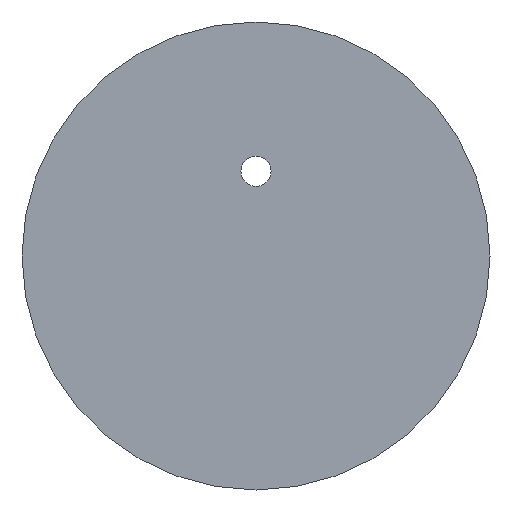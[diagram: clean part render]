
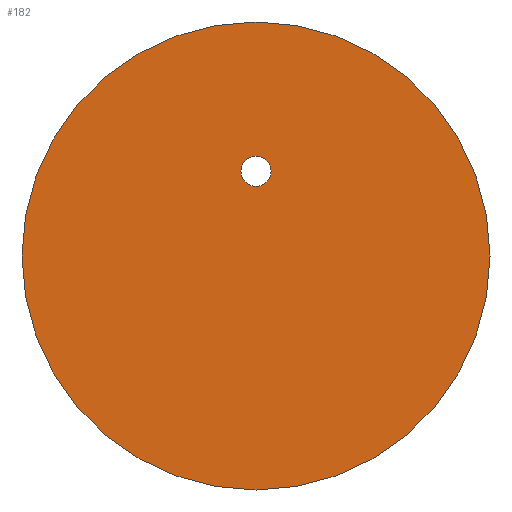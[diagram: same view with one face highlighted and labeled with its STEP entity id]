
A CAD part, left-side view. The second image highlights one B-rep face of the part: STEP entity #182.
In plain terms, the highlighted planar face has unit normal (-1, 0, 0).
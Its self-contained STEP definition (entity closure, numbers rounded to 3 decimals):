
#123=CARTESIAN_POINT('',(-2.5,0.,13.25));
#124=VERTEX_POINT('',#123);
#131=CARTESIAN_POINT('',(-2.5,0.,0.));
#132=DIRECTION('',(-0.,0.,1.));
#133=DIRECTION('',(1.,0.,0.));
#134=AXIS2_PLACEMENT_3D('',#131,#133,#132);
#135=CIRCLE('',#134,13.25);
#136=EDGE_CURVE('',#124,#124,#135,.T.);
#163=CARTESIAN_POINT('',(-2.5,0.,0.));
#164=DIRECTION('',(0.,0.,1.));
#165=DIRECTION('',(-1.,0.,0.));
#166=AXIS2_PLACEMENT_3D('',#163,#165,#164);
#167=PLANE('',#166);
#168=ORIENTED_EDGE('',*,*,#136,.F.);
#169=EDGE_LOOP('',(#168));
#170=FACE_OUTER_BOUND('',#169,.T.);
#171=CARTESIAN_POINT('',(-2.5,0.,5.65));
#172=VERTEX_POINT('',#171);
#173=CARTESIAN_POINT('',(-2.5,0.,4.8));
#174=DIRECTION('',(-0.,0.,1.));
#175=DIRECTION('',(1.,0.,0.));
#176=AXIS2_PLACEMENT_3D('',#173,#175,#174);
#177=CIRCLE('',#176,0.85);
#178=EDGE_CURVE('',#172,#172,#177,.T.);
#179=ORIENTED_EDGE('E11',*,*,#178,.T.);
#180=EDGE_LOOP('',(#179));
#181=FACE_BOUND('',#180,.T.);
#182=ADVANCED_FACE('F13',(#170,#181),#167,.T.);
